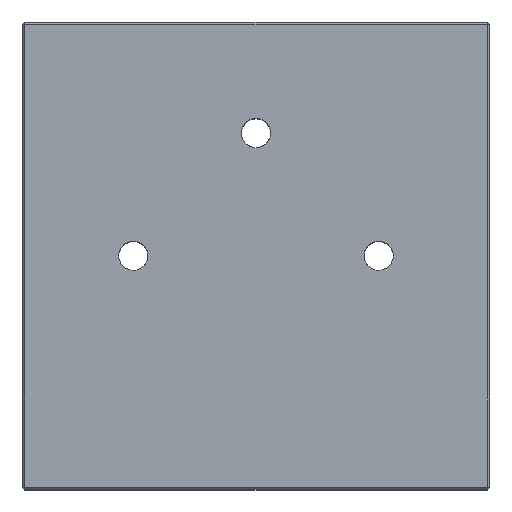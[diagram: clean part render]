
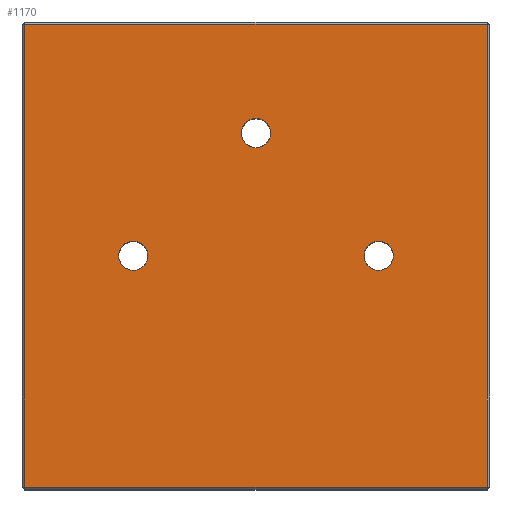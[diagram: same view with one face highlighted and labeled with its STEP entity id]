
A CAD part, top view. The second image highlights one B-rep face of the part: STEP entity #1170.
In plain terms, the highlighted planar face has unit normal (0, 0, 1).
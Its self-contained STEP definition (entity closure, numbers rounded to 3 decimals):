
#79=FACE_BOUND('',#263,.T.);
#80=FACE_BOUND('',#264,.T.);
#81=FACE_BOUND('',#265,.T.);
#111=PLANE('',#1309);
#189=FACE_OUTER_BOUND('',#262,.T.);
#262=EDGE_LOOP('',(#1061,#1062,#1063,#1064));
#263=EDGE_LOOP('',(#1065));
#264=EDGE_LOOP('',(#1066));
#265=EDGE_LOOP('',(#1067));
#332=LINE('',#2349,#403);
#336=LINE('',#2357,#407);
#337=LINE('',#2359,#408);
#338=LINE('',#2361,#409);
#403=VECTOR('',#1578,10.);
#407=VECTOR('',#1588,10.);
#408=VECTOR('',#1591,10.);
#409=VECTOR('',#1594,10.);
#445=CIRCLE('',#1246,1.25);
#447=CIRCLE('',#1250,1.25);
#450=CIRCLE('',#1256,1.25);
#520=VERTEX_POINT('',#1903);
#522=VERTEX_POINT('',#1911);
#547=VERTEX_POINT('',#2174);
#564=VERTEX_POINT('',#2318);
#568=VERTEX_POINT('',#2336);
#569=VERTEX_POINT('',#2343);
#570=VERTEX_POINT('',#2351);
#642=EDGE_CURVE('',#520,#520,#445,.T.);
#646=EDGE_CURVE('',#522,#522,#447,.T.);
#674=EDGE_CURVE('',#547,#547,#450,.T.);
#730=EDGE_CURVE('',#564,#569,#332,.T.);
#734=EDGE_CURVE('',#569,#570,#336,.T.);
#735=EDGE_CURVE('',#570,#568,#337,.T.);
#736=EDGE_CURVE('',#568,#564,#338,.T.);
#1061=ORIENTED_EDGE('',*,*,#730,.F.);
#1062=ORIENTED_EDGE('',*,*,#736,.F.);
#1063=ORIENTED_EDGE('',*,*,#735,.F.);
#1064=ORIENTED_EDGE('',*,*,#734,.F.);
#1065=ORIENTED_EDGE('',*,*,#642,.T.);
#1066=ORIENTED_EDGE('',*,*,#646,.T.);
#1067=ORIENTED_EDGE('',*,*,#674,.T.);
#1170=ADVANCED_FACE('',(#189,#79,#80,#81),#111,.T.);
#1246=AXIS2_PLACEMENT_3D('',#1904,#1433,#1434);
#1250=AXIS2_PLACEMENT_3D('',#1912,#1443,#1444);
#1256=AXIS2_PLACEMENT_3D('',#2175,#1458,#1459);
#1309=AXIS2_PLACEMENT_3D('',#2367,#1603,#1604);
#1433=DIRECTION('center_axis',(0.,0.,-1.));
#1434=DIRECTION('ref_axis',(1.,0.,0.));
#1443=DIRECTION('center_axis',(0.,0.,-1.));
#1444=DIRECTION('ref_axis',(1.,0.,0.));
#1458=DIRECTION('center_axis',(0.,0.,-1.));
#1459=DIRECTION('ref_axis',(1.,0.,0.));
#1578=DIRECTION('',(0.,1.,0.));
#1588=DIRECTION('',(1.,0.,0.));
#1591=DIRECTION('',(0.,-1.,0.));
#1594=DIRECTION('',(-1.,0.,0.));
#1603=DIRECTION('center_axis',(0.,0.,1.));
#1604=DIRECTION('ref_axis',(1.,0.,0.));
#1903=CARTESIAN_POINT('',(-11.75,0.,25.));
#1904=CARTESIAN_POINT('Origin',(-10.5,0.,25.));
#1911=CARTESIAN_POINT('',(-1.25,10.5,25.));
#1912=CARTESIAN_POINT('Origin',(0.,10.5,25.));
#2174=CARTESIAN_POINT('',(9.25,0.,25.));
#2175=CARTESIAN_POINT('Origin',(10.5,0.,25.));
#2318=CARTESIAN_POINT('',(-19.8,-19.8,25.));
#2336=CARTESIAN_POINT('',(19.8,-19.8,25.));
#2343=CARTESIAN_POINT('',(-19.8,19.8,25.));
#2349=CARTESIAN_POINT('',(-19.8,10.,25.));
#2351=CARTESIAN_POINT('',(19.8,19.8,25.));
#2357=CARTESIAN_POINT('',(10.,19.8,25.));
#2359=CARTESIAN_POINT('',(19.8,-10.,25.));
#2361=CARTESIAN_POINT('',(-10.,-19.8,25.));
#2367=CARTESIAN_POINT('Origin',(0.,0.,25.));
